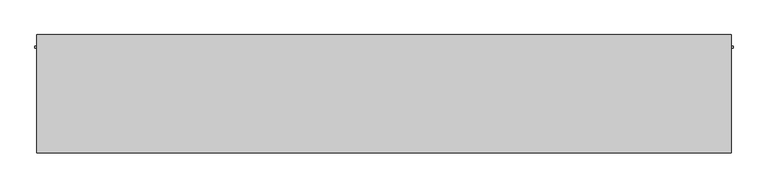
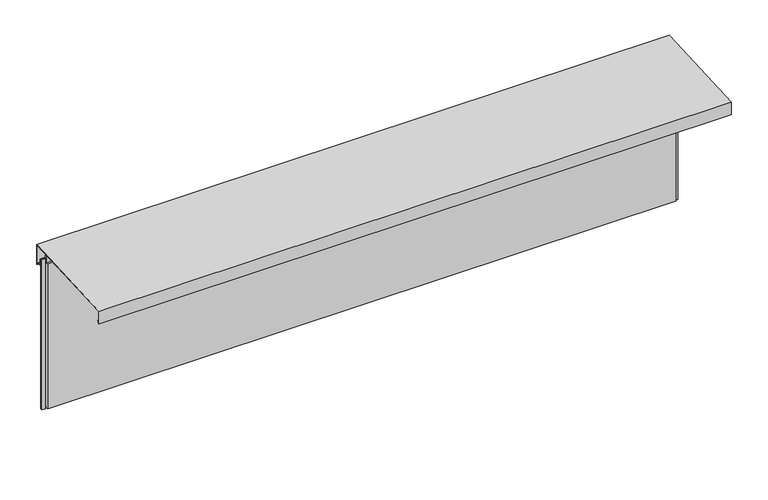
"""IFC4 building model written with IfcOpenShell, lengths in millimetres: plate geometry, Trimo_Qbiss Screen_Normal Panel-HORIZONTAL : HR - B."""

from ifc_helpers import new_model, si_unit, frame, origin, place, context, project, spatial, polyline, outline, extrude, source, transform, mapped, element, save


def plate_18e4d27f(model_context):
    return source(origin(), model_context, "Body", "SweptSolid", [
        extrude(outline(polyline([(101.0, 868.0), (77.0, 868.0), (77.0, 868.8), (101.8, 868.8), (101.8, 831.8), (125.3313708, 831.8), (133.2, 823.9313708), (133.2, 822.8), (125.0, 831.0), (101.0, 831.0), (101.0, 868.0)])), frame((-1774.3307146, 0.0, 0.0), z_axis=(1.0, 0.0, 0.0), x_axis=(0.0, 1.0, 0.0)), (0.0, 0.0, 1.0), 3548.6614291),
        extrude(outline(polyline([(134.2, 818.9715729), (134.2, 934.1569759), (-469.2, 905.4165497), (-469.2, 833.1070922), (-457.6367532, 844.670339), (-457.0710678, 844.1046536), (-470.0, 831.1757214), (-470.0, 906.1757214), (135.0, 935.0), (135.0, 817.040202), (123.020101, 829.020101), (123.5857864, 829.5857864), (134.2, 818.9715729)])), frame((-1774.3307146, 0.0, 0.0), z_axis=(1.0, 0.0, 0.0), x_axis=(0.0, 1.0, 0.0)), (0.0, 0.0, 1.0), 3548.6614291),
        extrude(outline(polyline([(-1764.8307146, 76.5978162), (-1764.8307146, 67.8978162), (-1783.8307146, 67.8978162), (-1783.8307146, 76.5978162), (-1764.8307146, 76.5978162)])), frame((0.0, 0.0, -1.0), z_axis=(0.0, 0.0, 1.0), x_axis=(1.0, 0.0, 0.0)), (0.0, 0.0, 1.0), 890.0),
        extrude(outline(polyline([(1764.8307146, 67.8978162), (1764.8307146, 76.5978162), (1783.8307146, 76.5978162), (1783.8307146, 67.8978162), (1764.8307146, 67.8978162)])), frame((0.0, 0.0, -1.0), z_axis=(0.0, 0.0, 1.0), x_axis=(1.0, 0.0, 0.0)), (0.0, 0.0, 1.0), 890.0),
        extrude(outline(polyline([(1761.8307146, 76.0), (1761.8307146, 71.0), (-1761.8307146, 71.0), (-1761.8307146, 76.0), (1761.8307146, 76.0)])), frame((0.0, 0.0, 868.0), z_axis=(0.0, 0.0, 1.0), x_axis=(1.0, 0.0, 0.0)), (0.0, 0.0, 1.0), 21.0),
        extrude(outline(polyline([(71.0, 867.0), (100.0, 867.0), (100.0, 0.0), (72.0, 0.0), (72.0, 15.5), (62.0, 15.5), (62.0, 7.0), (50.0, 7.0), (50.0, 867.0), (63.0, 867.0), (63.0, 904.5), (71.0, 904.5), (71.0, 867.0)])), frame((-1761.8307146, 0.0, 0.0), z_axis=(1.0, 0.0, 0.0), x_axis=(0.0, 1.0, 0.0)), (0.0, 0.0, 1.0), 3523.6614291),
    ])


if __name__ == "__main__":
    model = new_model("IFC4")
    model_context = context("Model", 3, world=origin())
    ifc_project = project(units=[si_unit("LENGTHUNIT", "METRE", prefix="MILLI")], contexts=[model_context])
    site = spatial("IfcSite", under=ifc_project)
    building = spatial("IfcBuilding", under=site)
    placement = place(None, origin())
    plate_shape = plate_18e4d27f(model_context)
    element("IfcPlate", 1, ObjectType="Trimo_Qbiss Screen_Normal Panel-HORIZONTAL : HR - B", at=placement, inside=building, context=model_context, shape_type="MappedRepresentation", body=[
        mapped(plate_shape, transform((0.0, 0.0, 0.0), x_axis=(1.0, 0.0, 0.0), y_axis=(0.0, 1.0, 0.0), z_axis=(0.0, 0.0, 1.0))),
    ])
    save(model, "model.ifc")
